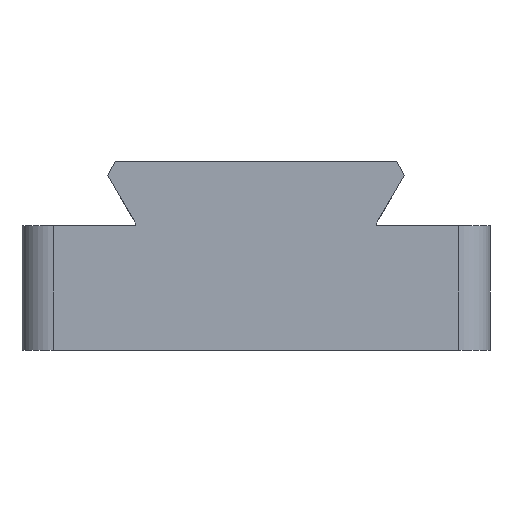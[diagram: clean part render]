
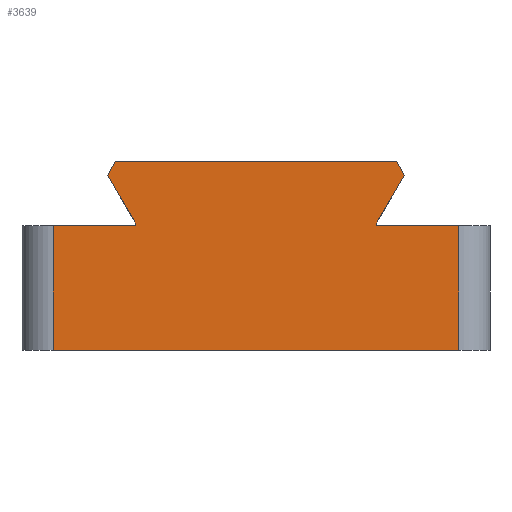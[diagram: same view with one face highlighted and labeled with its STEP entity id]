
A CAD part, left-side view. The second image highlights one B-rep face of the part: STEP entity #3639.
In plain terms, the highlighted planar face has unit normal (-1, 0, 0).
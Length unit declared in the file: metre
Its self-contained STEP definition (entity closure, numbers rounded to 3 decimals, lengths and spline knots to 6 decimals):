
#542=ORIENTED_EDGE('',*,*,#1492,.T.);
#543=ORIENTED_EDGE('',*,*,#1617,.T.);
#544=ORIENTED_EDGE('',*,*,#1422,.F.);
#545=ORIENTED_EDGE('',*,*,#1618,.T.);
#546=ORIENTED_EDGE('',*,*,#1506,.T.);
#547=ORIENTED_EDGE('',*,*,#1475,.F.);
#548=ORIENTED_EDGE('',*,*,#1610,.F.);
#549=ORIENTED_EDGE('',*,*,#1510,.T.);
#550=ORIENTED_EDGE('',*,*,#1464,.F.);
#551=ORIENTED_EDGE('',*,*,#1619,.T.);
#552=ORIENTED_EDGE('',*,*,#1613,.T.);
#553=ORIENTED_EDGE('',*,*,#1484,.T.);
#1422=EDGE_CURVE('',#1972,#1973,#2339,.T.);
#1464=EDGE_CURVE('',#2014,#2015,#2360,.T.);
#1475=EDGE_CURVE('',#2024,#2025,#2370,.T.);
#1484=EDGE_CURVE('',#2031,#2033,#2379,.T.);
#1492=EDGE_CURVE('',#2033,#2039,#2384,.T.);
#1506=EDGE_CURVE('',#2051,#2025,#2391,.T.);
#1510=EDGE_CURVE('',#2053,#2015,#2393,.F.);
#1610=EDGE_CURVE('',#2053,#2024,#2441,.T.);
#1613=EDGE_CURVE('',#2146,#2031,#2443,.T.);
#1617=EDGE_CURVE('',#2039,#1973,#2447,.T.);
#1618=EDGE_CURVE('',#1972,#2051,#2448,.F.);
#1619=EDGE_CURVE('',#2014,#2146,#2449,.T.);
#1972=VERTEX_POINT('',#4899);
#1973=VERTEX_POINT('',#4901);
#2014=VERTEX_POINT('',#4986);
#2015=VERTEX_POINT('',#4988);
#2024=VERTEX_POINT('',#5010);
#2025=VERTEX_POINT('',#5012);
#2031=VERTEX_POINT('',#5026);
#2033=VERTEX_POINT('',#5030);
#2039=VERTEX_POINT('',#5046);
#2051=VERTEX_POINT('',#5074);
#2053=VERTEX_POINT('',#5079);
#2146=VERTEX_POINT('',#5360);
#2339=LINE('',#4900,#2685);
#2360=LINE('',#4987,#2706);
#2370=LINE('',#5011,#2716);
#2379=LINE('',#5031,#2725);
#2384=LINE('',#5047,#2730);
#2391=LINE('',#5073,#2737);
#2393=LINE('',#5081,#2739);
#2441=LINE('',#5357,#2787);
#2443=LINE('',#5363,#2789);
#2447=LINE('',#5369,#2793);
#2448=LINE('',#5370,#2794);
#2449=LINE('',#5371,#2795);
#2685=VECTOR('',#4088,1.);
#2706=VECTOR('',#4157,1.);
#2716=VECTOR('',#4175,1.);
#2725=VECTOR('',#4188,1.);
#2730=VECTOR('',#4203,1.);
#2737=VECTOR('',#4226,1.);
#2739=VECTOR('',#4234,1.);
#2787=VECTOR('',#4314,1.);
#2789=VECTOR('',#4320,1.);
#2793=VECTOR('',#4328,1.);
#2794=VECTOR('',#4329,1.);
#2795=VECTOR('',#4330,1.);
#3064=EDGE_LOOP('',(#542,#543,#544,#545,#546,#547,#548,#549,#550,#551,#552,
#553));
#3306=FACE_BOUND('',#3064,.T.);
#3527=PLANE('',#3910);
#3639=ADVANCED_FACE('',(#3306),#3527,.F.);
#3910=AXIS2_PLACEMENT_3D('',#5368,#4326,#4327);
#4088=DIRECTION('',(0.,1.,0.));
#4157=DIRECTION('',(0.,-1.,0.));
#4175=DIRECTION('',(0.,0.,-1.));
#4188=DIRECTION('',(0.,0.,-1.));
#4203=DIRECTION('',(0.,1.,0.));
#4226=DIRECTION('',(0.,1.,0.));
#4234=DIRECTION('',(0.,-0.5,-0.866));
#4314=DIRECTION('',(0.,0.5,-0.866));
#4320=DIRECTION('',(0.,-0.5,-0.866));
#4326=DIRECTION('',(1.,0.,0.));
#4327=DIRECTION('',(0.,1.,0.));
#4328=DIRECTION('',(0.,0.,-1.));
#4329=DIRECTION('',(0.,0.,-1.));
#4330=DIRECTION('',(0.,0.5,-0.866));
#4899=CARTESIAN_POINT('',(0.,-0.013,-0.008));
#4900=CARTESIAN_POINT('',(0.,-0.015,-0.008));
#4901=CARTESIAN_POINT('',(0.,0.013,-0.008));
#4986=CARTESIAN_POINT('',(0.,0.009004,0.0041));
#4987=CARTESIAN_POINT('',(0.,0.,0.0041));
#4988=CARTESIAN_POINT('',(0.,-0.009004,0.0041));
#5010=CARTESIAN_POINT('',(0.,-0.007695,0.0001));
#5011=CARTESIAN_POINT('',(0.,-0.007695,0.00005));
#5012=CARTESIAN_POINT('',(0.,-0.007695,0.));
#5026=CARTESIAN_POINT('',(0.,0.007695,0.0001));
#5030=CARTESIAN_POINT('',(0.,0.007695,0.));
#5031=CARTESIAN_POINT('',(0.,0.007695,0.00005));
#5046=CARTESIAN_POINT('',(0.,0.013,0.));
#5047=CARTESIAN_POINT('',(0.,-0.015,0.));
#5073=CARTESIAN_POINT('',(0.,-0.015,0.));
#5074=CARTESIAN_POINT('',(0.,-0.013,0.));
#5079=CARTESIAN_POINT('',(0.,-0.009504,0.003234));
#5081=CARTESIAN_POINT('',(0.,-0.009504,0.003234));
#5357=CARTESIAN_POINT('',(0.,-0.00885,0.0021));
#5360=CARTESIAN_POINT('',(0.,0.009504,0.003234));
#5363=CARTESIAN_POINT('',(0.,0.00885,0.0021));
#5368=CARTESIAN_POINT('',(0.,0.,0.00205));
#5369=CARTESIAN_POINT('',(0.,0.013,0.00205));
#5370=CARTESIAN_POINT('',(0.,-0.013,0.));
#5371=CARTESIAN_POINT('',(0.,0.009004,0.0041));
